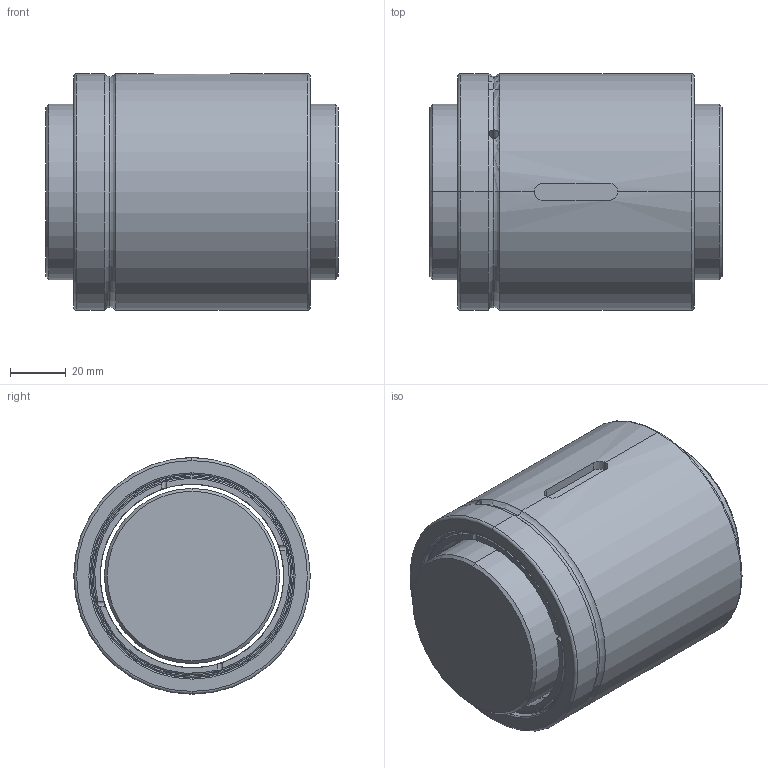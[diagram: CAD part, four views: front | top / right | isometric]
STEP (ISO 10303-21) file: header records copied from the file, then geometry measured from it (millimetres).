
FILE_DESCRIPTION (( 'STEP AP203' ), '1' );
FILE_NAME ('SCIR06310T4-C.STEP', '2020-06-17T07:42:07', ( '' ), ( '' ), 'SwSTEP 2.0', 'SolidWorks 2013', '' );
FILE_SCHEMA (( 'CONFIG_CONTROL_DESIGN' ));
Length unit declared in the file: millimetre
Products named in the file (1): SCIR06310T4-C
Bounding box: 105 x 85 x 85 mm (x, y, z)
Volume: 511643.1 mm3; surface area: 78997.4 mm2
Topology: 2 solids, 2 shells, 98 faces, 228 edges, 139 vertices
Faces by surface type: cylinder 43, torus 30, plane 21, cone 4
Entity records: 3339 total; most frequent: CARTESIAN_POINT 1012, DIRECTION 504, ORIENTED_EDGE 456, EDGE_CURVE 228, AXIS2_PLACEMENT_3D 225, VERTEX_POINT 139, CIRCLE 126, EDGE_LOOP 107
